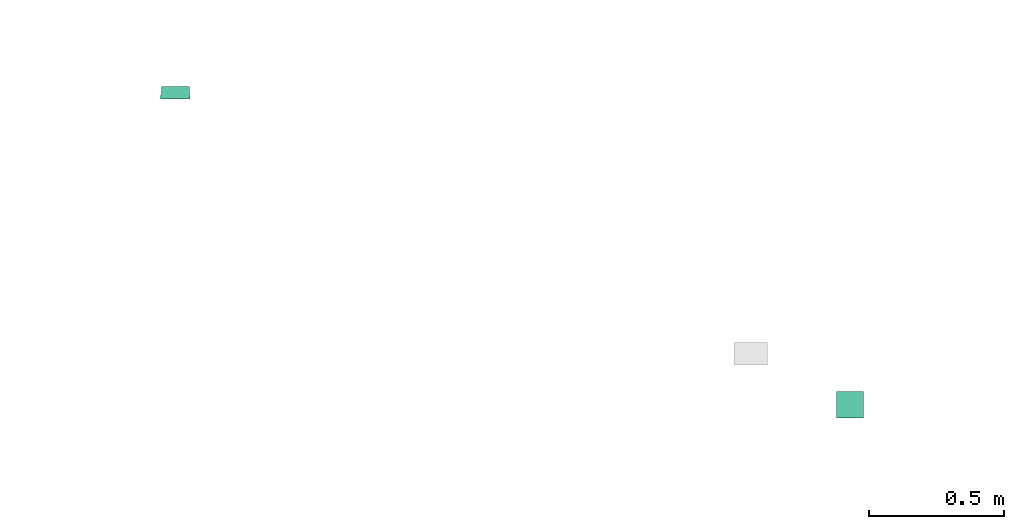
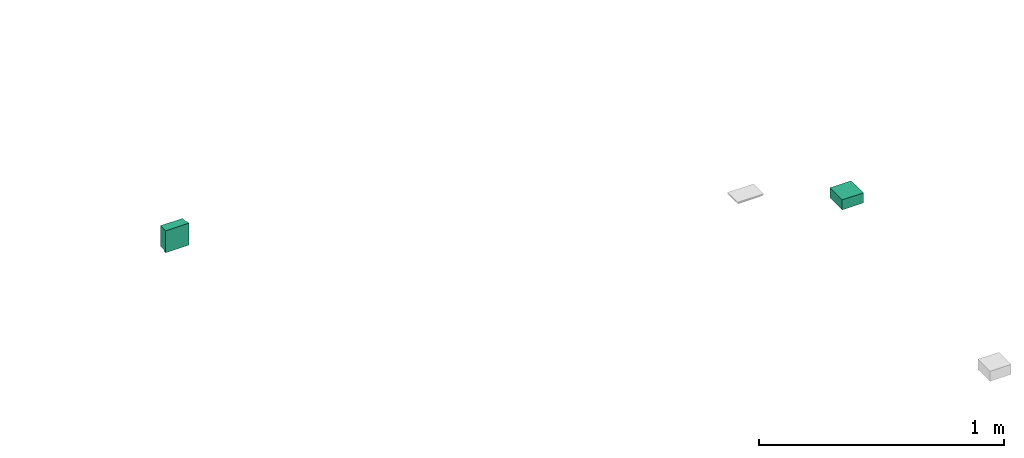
# One storey, part 3 of 14: 1 flow fitting, 1 flow terminal.
"""IFC2X3 building model written with IfcOpenShell, lengths in millimetres."""

from ifc_helpers import new_model, entity, si_unit, converted_unit, derived_unit, direction, frame, origin_with_axes, place, context, subcontext, project, spatial, open_shell, surface_model, source, transform, mapped, type_object, element, save


model = new_model("IFC2X3")

# Units and contexts
model_context = context("Model", 3, precision=0.01, world=frame((0.0, 4.29681676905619e-09, 0.0)), true_north=direction((4.01073788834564e-13, 1.0)))
plan_context = context("Plan", 3, precision=0.01, world=frame((0.0, 4.29681676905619e-09, 0.0)), true_north=direction((4.01073788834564e-13, 1.0)))
body_context = subcontext(model_context, "Body", "Model", "MODEL_VIEW")
ifc_project = project(units=[converted_unit("PLANEANGLEUNIT", "DEGREE", entity("IfcPositiveLengthMeasure", 0.0174532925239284), si_unit("PLANEANGLEUNIT", "RADIAN"), dimensions=[0, 0, 0, 0, 0, 0, 0]), si_unit("AREAUNIT", "SQUARE_METRE"), si_unit("LENGTHUNIT", "METRE", prefix="MILLI"), si_unit("MASSUNIT", "GRAM", prefix="KILO"), si_unit("POWERUNIT", "WATT"), si_unit("PRESSUREUNIT", "PASCAL"), si_unit("FORCEUNIT", "NEWTON", prefix="KILO"), si_unit("ELECTRICVOLTAGEUNIT", "VOLT"), si_unit("ELECTRICCURRENTUNIT", "AMPERE"), si_unit("THERMODYNAMICTEMPERATUREUNIT", "DEGREE_CELSIUS"), si_unit("TIMEUNIT", "SECOND"), si_unit("VOLUMEUNIT", "CUBIC_METRE"), derived_unit("LINEARVELOCITYUNIT", [(si_unit("LENGTHUNIT", "METRE"), 1), (si_unit("TIMEUNIT", "SECOND"), -1)]), derived_unit("VOLUMETRICFLOWRATEUNIT", [(si_unit("VOLUMEUNIT", "CUBIC_METRE"), 1), (si_unit("TIMEUNIT", "SECOND"), -1)]), derived_unit("THERMALTRANSMITTANCEUNIT", [(si_unit("POWERUNIT", "WATT"), 1), (si_unit("THERMODYNAMICTEMPERATUREUNIT", "KELVIN"), -1), (si_unit("AREAUNIT", "SQUARE_METRE"), -1)]), derived_unit("SOUNDPRESSUREUNIT", [(si_unit("PRESSUREUNIT", "PASCAL"), 1)])], contexts=[model_context, plan_context])

# Site, building, storey
site_placement = place(None, frame((0.0, -4.29681676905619e-09, 0.0), z_axis=(0.0, 0.0, 1.0), x_axis=(1.0, 0.0, 0.0)))
site = spatial("IfcSite", under=ifc_project, at=site_placement, Name="ENGM", CompositionType="ELEMENT")
building_placement = place(site_placement, frame((0.0, 4.29681676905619e-09, 0.0), z_axis=(0.0, 0.0, 1.0), x_axis=(1.0, 0.0, 0.0)))
building = spatial("IfcBuilding", under=site, at=building_placement, Name="TH", CompositionType="ELEMENT")
storey_placement = place(building_placement, frame((0.0, 0.0, 205200.0), z_axis=(0.0, 0.0, 1.0), x_axis=(1.0, 0.0, 0.0)))
storey = spatial("IfcBuildingStorey", under=building, at=storey_placement, Name="Nivå D + 1,2 m", CompositionType="ELEMENT", Elevation=205200.0)

# Flow fitting
junction_box_type = type_object("IfcJunctionBoxType", Name="Koblingsboks åpen", PredefinedType="NOTDEFINED")
shared_shape_1 = source(origin_with_axes(), body_context, "Body", "SurfaceModel", [
    surface_model("IfcShellBasedSurfaceModel", [(-55.0, 46.0, 55.0), (-55.0, 32.2, 55.0), (55.0, 32.2, 55.0), (55.0, 46.0, 55.0), (55.0, 46.0, -55.0), (55.0, 32.2, -55.0), (-55.0, 32.2, -55.0), (-55.0, 46.0, -55.0), (-52.0, 32.2, 52.0), (-52.0, 0.0, 52.0), (52.0, 0.0, 52.0), (52.0, 32.2, 52.0), (52.0, 32.2, -52.0), (52.0, 0.0, -52.0), (-52.0, 0.0, -52.0), (-52.0, 32.2, -52.0)], [open_shell([[[0, 1, 2]], [[2, 3, 0]], [[4, 5, 6]], [[6, 7, 4]], [[2, 1, 6]], [[6, 5, 2]], [[3, 2, 5]], [[5, 4, 3]], [[0, 3, 4]], [[4, 7, 0]], [[1, 0, 7]], [[7, 6, 1]], [[8, 9, 10]], [[10, 11, 8]], [[12, 13, 14]], [[14, 15, 12]], [[10, 9, 14]], [[14, 13, 10]], [[11, 10, 13]], [[13, 12, 11]], [[8, 11, 12]], [[12, 15, 8]], [[9, 8, 15]], [[15, 14, 9]]])]),
])
flow_fitting_placement = place(storey_placement, frame((898027.325, 484094.3, 4880.29045999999), z_axis=(0.0, 0.0, 1.0), x_axis=(-1.0, 0.0, 0.0)))
element("IfcFlowFitting", 1, at=flow_fitting_placement, inside=storey, type_object=junction_box_type, Name="Koblingsboks åpen", context=body_context, shape_type="MappedRepresentation", body=[
    mapped(shared_shape_1, transform((0.0, 0.0, 0.0), scale=1.0)),
])

# Flow terminal
electric_appliance_type = type_object("IfcElectricApplianceType", Name="Motorstyrt ventil", PredefinedType="NOTDEFINED")
shared_shape_2 = source(origin_with_axes(), body_context, "Body", "SurfaceModel", [
    surface_model("IfcShellBasedSurfaceModel", [(50.0, -50.0, 50.0), (50.0, 50.0, 50.0), (-50.0, 50.0, 50.0), (-50.0, -50.0, 50.0), (-50.0, -50.0, 0.0), (-50.0, 50.0, 0.0), (50.0, 50.0, 0.0), (50.0, -50.0, 0.0)], [open_shell([[[0, 1, 2]], [[2, 3, 0]], [[4, 5, 6]], [[6, 7, 4]], [[2, 1, 6]], [[6, 5, 2]], [[3, 2, 5]], [[5, 4, 3]], [[0, 3, 4]], [[4, 7, 0]], [[1, 0, 7]], [[7, 6, 1]]])]),
])
flow_terminal_placement = place(storey_placement, frame((900529.17706, 482913.44868, 4880.29045999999), z_axis=(0.0, 0.0, 1.0), x_axis=(0.0, 1.0, 0.0)))
element("IfcFlowTerminal", 2, at=flow_terminal_placement, inside=storey, type_object=electric_appliance_type, Name="Motorstyrt ventil", context=body_context, shape_type="MappedRepresentation", body=[
    mapped(shared_shape_2, transform((0.0, 0.0, 0.0), scale=1.0)),
])

save(model, "model.ifc")
